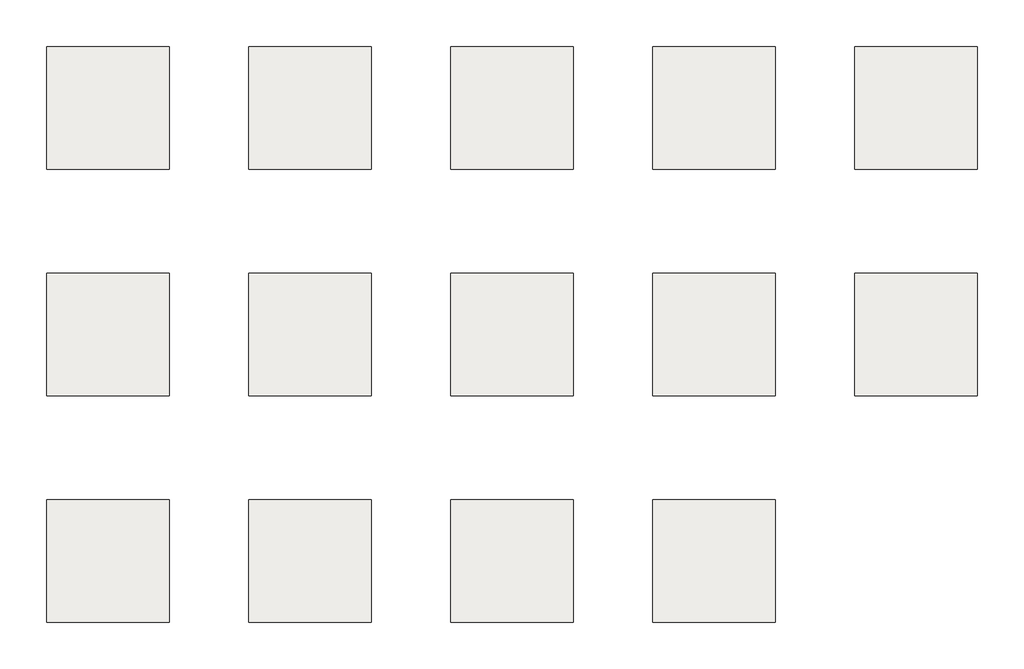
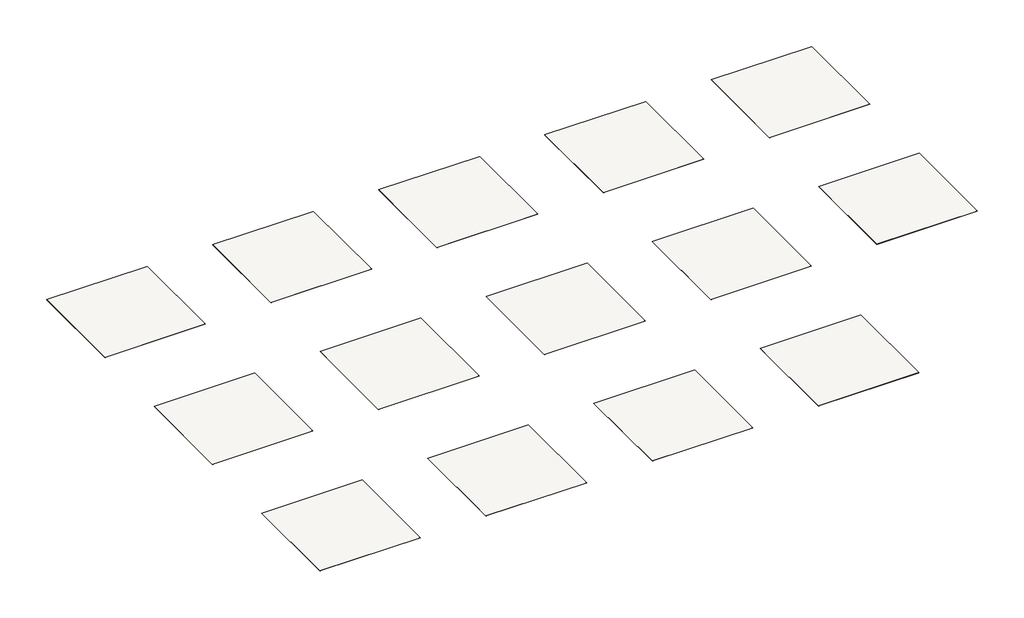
# One storey: 14 slabs.
"""IFC4 building model written with IfcOpenShell, lengths in millimetres."""

from ifc_helpers import new_model, si_unit, frame, origin, place, context, project, spatial, polyline, outline, extrude, element, save

model = new_model("IFC4")

# Units and contexts
model_context = context("Model", 3, world=origin())
ifc_project = project(units=[si_unit("LENGTHUNIT", "METRE", prefix="MILLI")], contexts=[model_context])

# Site, building, storey
site = spatial("IfcSite", under=ifc_project)
building = spatial("IfcBuilding", under=site)
storey = spatial("IfcBuildingStorey", under=building, Name="Tarkett Brasil", Elevation=0.0)

# Slabs
placement = place(None, origin())
element("IfcSlab", 1, ObjectType="Tarkett Brasil - Vinyl - Injoy - Calendula 24124381", at=placement, inside=storey, context=model_context, shape_type="SweptSolid", body=[
    extrude(outline(polyline([(-15702.4114832, -23022.4344613), (-15702.4114832, -25022.4344613), (-17702.4114832, -25022.4344613), (-17702.4114832, -23022.4344613), (-15702.4114832, -23022.4344613)])), frame((0.0, 0.0, -2.0), z_axis=(0.0, 0.0, 1.0), x_axis=(1.0, 0.0, 0.0)), (0.0, 0.0, 1.0), 2.0),
])
element("IfcSlab", 2, ObjectType="Tarkett Brasil - Vinyl - Injoy - Camelia 24124011", at=placement, inside=storey, context=model_context, shape_type="SweptSolid", body=[
    extrude(outline(polyline([(-12402.4114832, -23022.4344613), (-12402.4114832, -25022.4344613), (-14402.4114832, -25022.4344613), (-14402.4114832, -23022.4344613), (-12402.4114832, -23022.4344613)])), frame((0.0, 0.0, -2.0), z_axis=(0.0, 0.0, 1.0), x_axis=(1.0, 0.0, 0.0)), (0.0, 0.0, 1.0), 2.0),
])
element("IfcSlab", 3, ObjectType="Tarkett Brasil - Vinyl - Injoy - Centeio 24124330", at=placement, inside=storey, context=model_context, shape_type="SweptSolid", body=[
    extrude(outline(polyline([(-9102.4114832, -23022.4344613), (-9102.4114832, -25022.4344613), (-11102.4114832, -25022.4344613), (-11102.4114832, -23022.4344613), (-9102.4114832, -23022.4344613)])), frame((0.0, 0.0, -2.0), z_axis=(0.0, 0.0, 1.0), x_axis=(1.0, 0.0, 0.0)), (0.0, 0.0, 1.0), 2.0),
])
element("IfcSlab", 4, ObjectType="Tarkett Brasil - Vinyl - Injoy - Gerbera 24124812", at=placement, inside=storey, context=model_context, shape_type="SweptSolid", body=[
    extrude(outline(polyline([(-5802.4114832, -23022.4344613), (-5802.4114832, -25022.4344613), (-7802.4114832, -25022.4344613), (-7802.4114832, -23022.4344613), (-5802.4114832, -23022.4344613)])), frame((0.0, 0.0, -2.0), z_axis=(0.0, 0.0, 1.0), x_axis=(1.0, 0.0, 0.0)), (0.0, 0.0, 1.0), 2.0),
])
element("IfcSlab", 5, ObjectType="Tarkett Brasil - Vinyl - Injoy - Lavanda 24124318", at=placement, inside=storey, context=model_context, shape_type="SweptSolid", body=[
    extrude(outline(polyline([(-15702.4114832, -26722.4344613), (-15702.4114832, -28722.4344613), (-17702.4114832, -28722.4344613), (-17702.4114832, -26722.4344613), (-15702.4114832, -26722.4344613)])), frame((0.0, 0.0, -2.0), z_axis=(0.0, 0.0, 1.0), x_axis=(1.0, 0.0, 0.0)), (0.0, 0.0, 1.0), 2.0),
])
element("IfcSlab", 6, ObjectType="Tarkett Brasil - Vinyl - Injoy - Lichia 24124344", at=placement, inside=storey, context=model_context, shape_type="SweptSolid", body=[
    extrude(outline(polyline([(-12402.4114832, -26722.4344613), (-12402.4114832, -28722.4344613), (-14402.4114832, -28722.4344613), (-14402.4114832, -26722.4344613), (-12402.4114832, -26722.4344613)])), frame((0.0, 0.0, -2.0), z_axis=(0.0, 0.0, 1.0), x_axis=(1.0, 0.0, 0.0)), (0.0, 0.0, 1.0), 2.0),
])
element("IfcSlab", 7, ObjectType="Tarkett Brasil - Vinyl - Injoy - Mate 24124301", at=placement, inside=storey, context=model_context, shape_type="SweptSolid", body=[
    extrude(outline(polyline([(-9102.4114832, -26722.4344613), (-9102.4114832, -28722.4344613), (-11102.4114832, -28722.4344613), (-11102.4114832, -26722.4344613), (-9102.4114832, -26722.4344613)])), frame((0.0, 0.0, -2.0), z_axis=(0.0, 0.0, 1.0), x_axis=(1.0, 0.0, 0.0)), (0.0, 0.0, 1.0), 2.0),
])
element("IfcSlab", 8, ObjectType="Tarkett Brasil - Vinyl - Injoy - Menta 24124345", at=placement, inside=storey, context=model_context, shape_type="SweptSolid", body=[
    extrude(outline(polyline([(-15702.4114832, -30422.4344613), (-15702.4114832, -32422.4344613), (-17702.4114832, -32422.4344613), (-17702.4114832, -30422.4344613), (-15702.4114832, -30422.4344613)])), frame((0.0, 0.0, -2.0), z_axis=(0.0, 0.0, 1.0), x_axis=(1.0, 0.0, 0.0)), (0.0, 0.0, 1.0), 2.0),
])
element("IfcSlab", 9, ObjectType="Tarkett Brasil - Vinyl - Injoy - Papoula 24124384", at=placement, inside=storey, context=model_context, shape_type="SweptSolid", body=[
    extrude(outline(polyline([(-2502.4114832, -26722.4344613), (-2502.4114832, -28722.4344613), (-4502.4114832, -28722.4344613), (-4502.4114832, -26722.4344613), (-2502.4114832, -26722.4344613)])), frame((0.0, 0.0, -2.0), z_axis=(0.0, 0.0, 1.0), x_axis=(1.0, 0.0, 0.0)), (0.0, 0.0, 1.0), 2.0),
])
element("IfcSlab", 10, ObjectType="Tarkett Brasil - Vinyl - Injoy - Primula 24124319", at=placement, inside=storey, context=model_context, shape_type="SweptSolid", body=[
    extrude(outline(polyline([(-2502.4114832, -23022.4344613), (-2502.4114832, -25022.4344613), (-4502.4114832, -25022.4344613), (-4502.4114832, -23022.4344613), (-2502.4114832, -23022.4344613)])), frame((0.0, 0.0, -2.0), z_axis=(0.0, 0.0, 1.0), x_axis=(1.0, 0.0, 0.0)), (0.0, 0.0, 1.0), 2.0),
])
element("IfcSlab", 11, ObjectType="Tarkett Brasil - Vinyl - Injoy - Tulipa 24124911", at=placement, inside=storey, context=model_context, shape_type="SweptSolid", body=[
    extrude(outline(polyline([(-5802.4114832, -26722.4344613), (-5802.4114832, -28722.4344613), (-7802.4114832, -28722.4344613), (-7802.4114832, -26722.4344613), (-5802.4114832, -26722.4344613)])), frame((0.0, 0.0, -2.0), z_axis=(0.0, 0.0, 1.0), x_axis=(1.0, 0.0, 0.0)), (0.0, 0.0, 1.0), 2.0),
])
element("IfcSlab", 12, ObjectType="Tarkett Brasil - Vinyl - Injoy - Gnaisse 24272102", at=placement, inside=storey, context=model_context, shape_type="SweptSolid", body=[
    extrude(outline(polyline([(-12402.4114832, -30422.4344613), (-12402.4114832, -32422.4344613), (-14402.4114832, -32422.4344613), (-14402.4114832, -30422.4344613), (-12402.4114832, -30422.4344613)])), frame((0.0, 0.0, -2.0), z_axis=(0.0, 0.0, 1.0), x_axis=(1.0, 0.0, 0.0)), (0.0, 0.0, 1.0), 2.0),
])
element("IfcSlab", 13, ObjectType="Tarkett Brasil - Vinyl - Injoy - Peonia 24124613", at=placement, inside=storey, context=model_context, shape_type="SweptSolid", body=[
    extrude(outline(polyline([(-9102.4114832, -30422.4344613), (-9102.4114832, -32422.4344613), (-11102.4114832, -32422.4344613), (-11102.4114832, -30422.4344613), (-9102.4114832, -30422.4344613)])), frame((0.0, 0.0, -2.0), z_axis=(0.0, 0.0, 1.0), x_axis=(1.0, 0.0, 0.0)), (0.0, 0.0, 1.0), 2.0),
])
element("IfcSlab", 14, ObjectType="Tarkett Brasil - Vinyl - Injoy - Ruseo 24272112", at=placement, inside=storey, context=model_context, shape_type="SweptSolid", body=[
    extrude(outline(polyline([(-5802.4114832, -30422.4344613), (-5802.4114832, -32422.4344613), (-7802.4114832, -32422.4344613), (-7802.4114832, -30422.4344613), (-5802.4114832, -30422.4344613)])), frame((0.0, 0.0, -2.0), z_axis=(0.0, 0.0, 1.0), x_axis=(1.0, 0.0, 0.0)), (0.0, 0.0, 1.0), 2.0),
])

save(model, "model.ifc")
